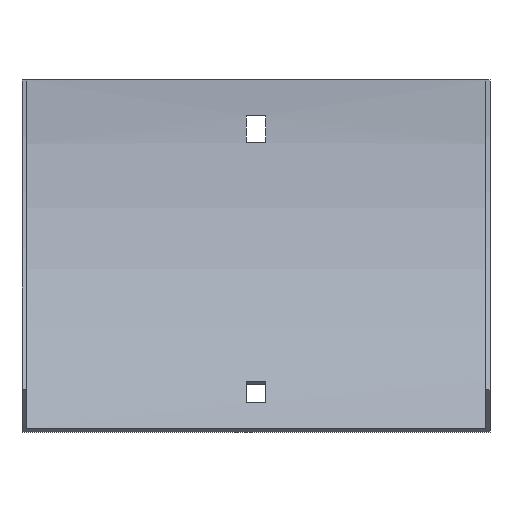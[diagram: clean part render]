
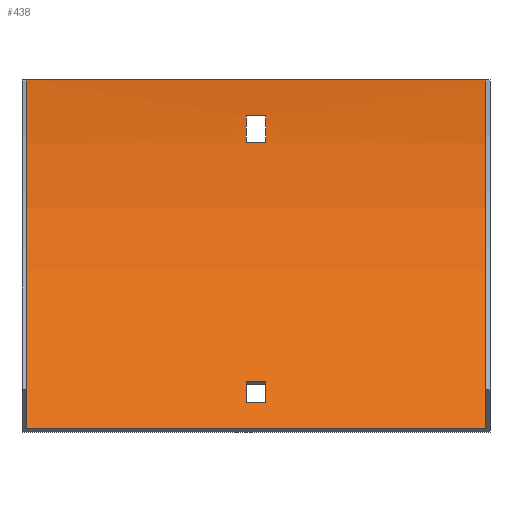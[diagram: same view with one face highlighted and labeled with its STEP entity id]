
A CAD part, front view. The second image highlights one B-rep face of the part: STEP entity #438.
In plain terms, the highlighted cylindrical face has radius 165.5 mm (diameter 331 mm), a partial arc.
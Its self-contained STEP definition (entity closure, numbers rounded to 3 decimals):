
#5 = VECTOR ( 'NONE', #358, 1000. ) ;
#12 = ORIENTED_EDGE ( 'NONE', *, *, #542, .T. ) ;
#19 = ORIENTED_EDGE ( 'NONE', *, *, #352, .F. ) ;
#20 = DIRECTION ( 'NONE',  ( -1., 0., 0. ) ) ;
#38 = CARTESIAN_POINT ( 'NONE',  ( 77., -49.974, -117.026 ) ) ;
#43 = EDGE_CURVE ( 'NONE', #565, #349, #311, .T. ) ;
#48 = DIRECTION ( 'NONE',  ( 1., 0., 0. ) ) ;
#50 = VERTEX_POINT ( 'NONE', #38 ) ;
#55 = CARTESIAN_POINT ( 'NONE',  ( 78.5, -2.838, -21. ) ) ;
#57 = AXIS2_PLACEMENT_3D ( 'NONE', #231, #514, #605 ) ;
#60 = ORIENTED_EDGE ( 'NONE', *, *, #389, .F. ) ;
#73 = CARTESIAN_POINT ( 'NONE',  ( 77., -49.974, -117.026 ) ) ;
#74 = CARTESIAN_POINT ( 'NONE',  ( -77., -49.974, -117.026 ) ) ;
#75 = CIRCLE ( 'NONE', #104, 165.5 ) ;
#77 = EDGE_LOOP ( 'NONE', ( #239, #476, #216, #12 ) ) ;
#85 = EDGE_CURVE ( 'NONE', #428, #312, #169, .T. ) ;
#87 = EDGE_CURVE ( 'NONE', #349, #241, #222, .T. ) ;
#88 = DIRECTION ( 'NONE',  ( -1., 0., 0. ) ) ;
#99 = CARTESIAN_POINT ( 'NONE',  ( -3.25, -1.936, -12. ) ) ;
#100 = ORIENTED_EDGE ( 'NONE', *, *, #594, .T. ) ;
#103 = VERTEX_POINT ( 'NONE', #74 ) ;
#104 = AXIS2_PLACEMENT_3D ( 'NONE', #115, #213, #396 ) ;
#107 = ORIENTED_EDGE ( 'NONE', *, *, #85, .F. ) ;
#115 = CARTESIAN_POINT ( 'NONE',  ( 3.25, -167., 0. ) ) ;
#132 = VECTOR ( 'NONE', #211, 1000. ) ;
#153 = LINE ( 'NONE', #55, #206 ) ;
#157 = VERTEX_POINT ( 'NONE', #601 ) ;
#159 = CARTESIAN_POINT ( 'NONE',  ( -3.25, -167., 0. ) ) ;
#163 = CARTESIAN_POINT ( 'NONE',  ( -3.25, -167., 0. ) ) ;
#169 = LINE ( 'NONE', #270, #132 ) ;
#175 = DIRECTION ( 'NONE',  ( 0., 0., 1. ) ) ;
#185 = DIRECTION ( 'NONE',  ( 0., 0., 1. ) ) ;
#189 = CARTESIAN_POINT ( 'NONE',  ( 3.25, -167., 0. ) ) ;
#206 = VECTOR ( 'NONE', #433, 1000. ) ;
#211 = DIRECTION ( 'NONE',  ( -1., 0., 0. ) ) ;
#213 = DIRECTION ( 'NONE',  ( 1., 0., 0. ) ) ;
#216 = ORIENTED_EDGE ( 'NONE', *, *, #590, .T. ) ;
#222 = LINE ( 'NONE', #410, #5 ) ;
#225 = CARTESIAN_POINT ( 'NONE',  ( -3.25, -41.797, -108.233 ) ) ;
#229 = LINE ( 'NONE', #367, #511 ) ;
#230 = EDGE_CURVE ( 'NONE', #602, #565, #229, .T. ) ;
#231 = CARTESIAN_POINT ( 'NONE',  ( 77., -167., 0. ) ) ;
#234 = VECTOR ( 'NONE', #20, 1000. ) ;
#239 = ORIENTED_EDGE ( 'NONE', *, *, #570, .F. ) ;
#240 = CARTESIAN_POINT ( 'NONE',  ( -3.25, -36.071, -101.231 ) ) ;
#241 = VERTEX_POINT ( 'NONE', #520 ) ;
#265 = CYLINDRICAL_SURFACE ( 'NONE', #564, 165.5 ) ;
#269 = DIRECTION ( 'NONE',  ( 0., 0., 1. ) ) ;
#270 = CARTESIAN_POINT ( 'NONE',  ( 78.5, -1.936, -12. ) ) ;
#296 = CIRCLE ( 'NONE', #394, 165.5 ) ;
#309 = CARTESIAN_POINT ( 'NONE',  ( 3.25, -2.838, -21. ) ) ;
#311 = CIRCLE ( 'NONE', #401, 165.5 ) ;
#312 = VERTEX_POINT ( 'NONE', #99 ) ;
#318 = CARTESIAN_POINT ( 'NONE',  ( -77., -167., 0. ) ) ;
#324 = CIRCLE ( 'NONE', #57, 165.5 ) ;
#330 = ORIENTED_EDGE ( 'NONE', *, *, #87, .T. ) ;
#341 = VERTEX_POINT ( 'NONE', #569 ) ;
#345 = EDGE_LOOP ( 'NONE', ( #19, #107, #348, #60 ) ) ;
#348 = ORIENTED_EDGE ( 'NONE', *, *, #482, .F. ) ;
#349 = VERTEX_POINT ( 'NONE', #240 ) ;
#352 = EDGE_CURVE ( 'NONE', #312, #568, #296, .T. ) ;
#354 = CARTESIAN_POINT ( 'NONE',  ( 78.5, -167., 0. ) ) ;
#358 = DIRECTION ( 'NONE',  ( 1., 0., 0. ) ) ;
#364 = LINE ( 'NONE', #73, #234 ) ;
#366 = DIRECTION ( 'NONE',  ( -1., 0., 0. ) ) ;
#367 = CARTESIAN_POINT ( 'NONE',  ( 78.5, -41.797, -108.233 ) ) ;
#369 = LINE ( 'NONE', #516, #373 ) ;
#373 = VECTOR ( 'NONE', #366, 1000. ) ;
#374 = CARTESIAN_POINT ( 'NONE',  ( -3.25, -2.838, -21. ) ) ;
#379 = CARTESIAN_POINT ( 'NONE',  ( 3.25, -41.797, -108.233 ) ) ;
#389 = EDGE_CURVE ( 'NONE', #568, #491, #153, .T. ) ;
#394 = AXIS2_PLACEMENT_3D ( 'NONE', #159, #431, #532 ) ;
#396 = DIRECTION ( 'NONE',  ( 0., 0., -1. ) ) ;
#401 = AXIS2_PLACEMENT_3D ( 'NONE', #163, #402, #550 ) ;
#402 = DIRECTION ( 'NONE',  ( 1., 0., 0. ) ) ;
#403 = AXIS2_PLACEMENT_3D ( 'NONE', #189, #88, #175 ) ;
#410 = CARTESIAN_POINT ( 'NONE',  ( 78.5, -36.071, -101.231 ) ) ;
#428 = VERTEX_POINT ( 'NONE', #505 ) ;
#431 = DIRECTION ( 'NONE',  ( -1., 0., 0. ) ) ;
#433 = DIRECTION ( 'NONE',  ( 1., 0., 0. ) ) ;
#438 = ADVANCED_FACE ( 'NONE', ( #553, #588, #447 ), #265, .F. ) ;
#447 = FACE_BOUND ( 'NONE', #485, .T. ) ;
#461 = EDGE_CURVE ( 'NONE', #50, #103, #364, .T. ) ;
#476 = ORIENTED_EDGE ( 'NONE', *, *, #461, .F. ) ;
#482 = EDGE_CURVE ( 'NONE', #491, #428, #75, .T. ) ;
#483 = CIRCLE ( 'NONE', #403, 165.5 ) ;
#485 = EDGE_LOOP ( 'NONE', ( #580, #575, #330, #100 ) ) ;
#491 = VERTEX_POINT ( 'NONE', #309 ) ;
#496 = DIRECTION ( 'NONE',  ( -1., 0., 0. ) ) ;
#503 = AXIS2_PLACEMENT_3D ( 'NONE', #318, #48, #185 ) ;
#505 = CARTESIAN_POINT ( 'NONE',  ( 3.25, -1.936, -12. ) ) ;
#511 = VECTOR ( 'NONE', #556, 1000. ) ;
#514 = DIRECTION ( 'NONE',  ( 1., 0., 0. ) ) ;
#516 = CARTESIAN_POINT ( 'NONE',  ( 77., -1.5, 0. ) ) ;
#520 = CARTESIAN_POINT ( 'NONE',  ( 3.25, -36.071, -101.231 ) ) ;
#531 = CIRCLE ( 'NONE', #503, 165.5 ) ;
#532 = DIRECTION ( 'NONE',  ( 0., 0., 1. ) ) ;
#542 = EDGE_CURVE ( 'NONE', #157, #341, #369, .T. ) ;
#550 = DIRECTION ( 'NONE',  ( 0., 0., -1. ) ) ;
#553 = FACE_BOUND ( 'NONE', #345, .T. ) ;
#556 = DIRECTION ( 'NONE',  ( -1., 0., 0. ) ) ;
#564 = AXIS2_PLACEMENT_3D ( 'NONE', #354, #496, #269 ) ;
#565 = VERTEX_POINT ( 'NONE', #225 ) ;
#568 = VERTEX_POINT ( 'NONE', #374 ) ;
#569 = CARTESIAN_POINT ( 'NONE',  ( -77., -1.5, 0. ) ) ;
#570 = EDGE_CURVE ( 'NONE', #103, #341, #531, .T. ) ;
#575 = ORIENTED_EDGE ( 'NONE', *, *, #43, .T. ) ;
#580 = ORIENTED_EDGE ( 'NONE', *, *, #230, .T. ) ;
#588 = FACE_OUTER_BOUND ( 'NONE', #77, .T. ) ;
#590 = EDGE_CURVE ( 'NONE', #50, #157, #324, .T. ) ;
#594 = EDGE_CURVE ( 'NONE', #241, #602, #483, .T. ) ;
#601 = CARTESIAN_POINT ( 'NONE',  ( 77., -1.5, 0. ) ) ;
#602 = VERTEX_POINT ( 'NONE', #379 ) ;
#605 = DIRECTION ( 'NONE',  ( 0., 0., 1. ) ) ;
